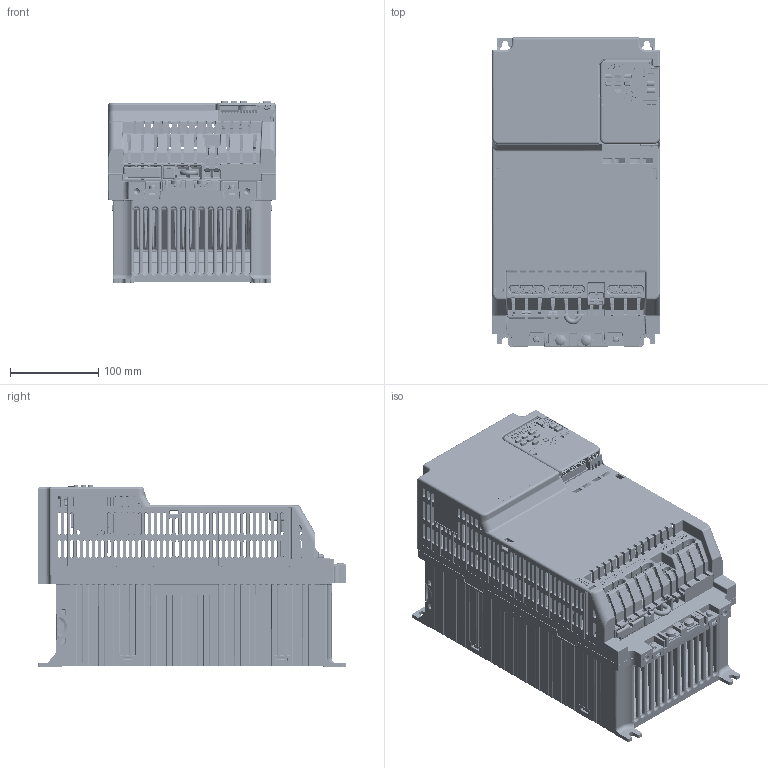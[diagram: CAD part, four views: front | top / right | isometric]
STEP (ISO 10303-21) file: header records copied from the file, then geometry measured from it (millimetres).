
FILE_DESCRIPTION((''),'2;1');
FILE_NAME('GA500_STD_FRAME_V8-A_ASM','2019-03-08T',('jam'),('YASKAWA ELECTRIC CORCORATION'),'PRO/ENGINEER BY PARAMETRIC TECHNOLOGY CORPORATION, 2015440','PRO/ENGINEER BY PARAMETRIC TECHNOLOGY CORPORATION, 2015440','');
FILE_SCHEMA(('CONFIG_CONTROL_DESIGN'));
Products named in the file (47): 400-104-343_1; SCAT41094_1; 08025DE-24P-BA-01_2_1; 08025DE-24P-BA-01_1_1; 08025DE-24P-BA-01_3_1; 08025DE-24P-BA-01_ASM_1_ASM; 400-104-342_1; 400-104-352_1; 400-104-301-01B-2_1; MKDS10HV_2-ZB-10P16_1; 300-093-092_1; 300-093-088_1; ETP761390_ASM_1_ASM; SCAT41285_M4X12_TOGARISAKIKARI_; 400-113-359_1; 400-104-023-01F-5_1; 95003-2884_1; B12B-PASK-1_1; 1734753-1_AF1_1; DHB-PD20-S131N-4P9_AF1_1; RT-01T-1P0B_LF_AF1_1; KARI_SPTA1_9-3P5_AF0_1; KARI_SPTA1_8-3P5_AF0_1; SPTA1_11-3P5_AF0_1; SPTA1_3-5P0_AF0_1; KTC750050-SXXXX_ASM_1_ASM; F354371_1; F354373_1; F354374_1; F354372_1; V-GEM_PWB2_1; 55265-0811_AF0_1; SM10B-SURS-TF_1_1; V-GIM_PWB_ASM2_ASM_1_ASM; GA500_KEYPAD_20180227_ASM_1_ASM; 400-104-186_1; 400-104-251_1; 400-112-421_1; 400-112-422_1; 400-115-297-005_1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
Assembly tree (52 placements, depth 5):
  GA500_STD_FRAME_V8-A_ASM
    KIPR-GA50_Q_4060_ASM_3_ASM
      400-104-343_1
      SCAT41094_1  x2
      08025DE-24P-BA-01_ASM_1_ASM  x2
        08025DE-24P-BA-01_2_1
        08025DE-24P-BA-01_1_1
        08025DE-24P-BA-01_3_1
      400-104-342_1
      400-104-352_1
      ETP761390_ASM_1_ASM
        400-104-301-01B-2_1
        MKDS10HV_2-ZB-10P16_1
        300-093-092_1
        300-093-088_1
      SCAT41285_M4X12_TOGARISAKIKARI_  x4
      400-113-359_1
      KTC750050-SXXXX_ASM_1_ASM
        400-104-023-01F-5_1
        95003-2884_1
        B12B-PASK-1_1
        1734753-1_AF1_1
        DHB-PD20-S131N-4P9_AF1_1
        RT-01T-1P0B_LF_AF1_1
        KARI_SPTA1_9-3P5_AF0_1
        KARI_SPTA1_8-3P5_AF0_1
        SPTA1_11-3P5_AF0_1
        SPTA1_3-5P0_AF0_1
      GA500_KEYPAD_20180227_ASM_1_ASM
        F354371_1
        F354373_1
        F354374_1
        F354372_1
        V-GIM_PWB_ASM2_ASM_1_ASM
          V-GEM_PWB2_1
          55265-0811_AF0_1
          SM10B-SURS-TF_1_1
      400-104-186_1
      400-104-251_1
      400-112-421_1
      400-112-422_1
      400-115-297-005_1
      400-104-204_4_1  x2
      400-104-206_8_1
      400-104-204_1_1
      400-104-204_2_1
      400-104-204_3_1
Bounding box: 190.02 x 350 x 206.75 mm (x, y, z)
Volume: 2177249.6 mm3; surface area: 1181857.2 mm2
Topology: 48 solids, 50 shells, 26389 faces, 70995 edges, 44986 vertices
Faces by surface type: plane 14462, cylinder 6779, bspline 2227, torus 1341, cone 1273, sphere 277, extrusion 30
Entity records: 916043 total; most frequent: CARTESIAN_POINT 292647, ORIENTED_EDGE 137474, DIRECTION 117845, EDGE_CURVE 68737, VECTOR 45555, LINE 45540, VERTEX_POINT 43751, AXIS2_PLACEMENT_3D 36145
